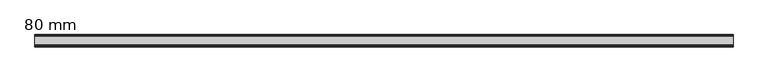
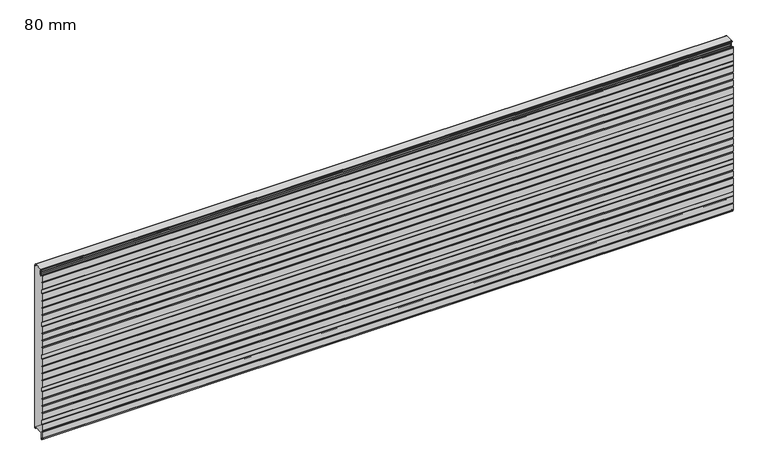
"""IFC4 building model written with IfcOpenShell, lengths in millimetres: plate geometry, HIANSA PANEL - H20.F02.002-PANELES DE FACHADA HORIZONTAL - PANEL PERFILADO - Panel de Muro Cortina : 80 mm."""

from ifc_helpers import new_model, si_unit, frame, origin, place, context, project, spatial, polyline, circle_curve, source, transform, mapped, element, save
from ifc_brep_helpers import plane_surface, cylinder_surface, revolved_surface, advanced_brep


def plate_80_mm_b6b1f14f(model_context):
    return source(origin(), model_context, "Body", "AdvancedBrep", [
        advanced_brep(
        [(-2200.0, -78.8752798, 1088.9050598), (-2200.0, -77.5170803, 1089.9655099), (-2200.0, -74.8776596, 1089.9655099), (-2200.0, -74.8776596, 1080.8), (-2200.0, -73.3776596, 1079.3), (-2200.0, -69.1276596, 1079.3), (-2200.0, -67.6276596, 1080.8), (-2200.0, -67.6276596, 1082.4013031), (-2200.0, -66.9880243, 1083.6300312), (-2200.0, -60.9305067, 1087.8715506), (-2200.0, -60.0776596, 1089.5098547), (-2200.0, -60.0776596, 1098.6062275), (-2200.0, -59.3889845, 1099.7990478), (-2200.0, -59.3889845, 1100.7990478), (-2200.0, -60.0776596, 1101.9918681), (-2200.0, -60.0776596, 1111.0896684), (-2200.0, -60.9305067, 1112.7279725), (-2200.0, -66.9880243, 1116.969492), (-2200.0, -67.6276596, 1118.19822), (-2200.0, -67.6276596, 1121.5805697), (-2200.0, -66.1276596, 1123.0805697), (-2200.0, -7.7494039, 1123.0810465), (-2200.0, -6.7486887, 1122.0803313), (-2200.0, -6.7486887, 1115.9337883), (-2200.0, -4.7472517, 1113.9323514), (-2200.0, -1.4941037, 1113.9323514), (-2200.0, -0.5, 1112.9382477), (-2200.0, -0.5, 1088.0627766), (-2200.0, -1.5005169, 1085.0504228), (-2200.0, -1.5005169, 1044.8881451), (-2200.0, -0.5, 1041.8865945), (-2200.0, -0.5, 997.0519734), (-2200.0, -1.5005169, 994.0504228), (-2200.0, -1.5005169, 953.8881451), (-2200.0, -0.5, 950.8865945), (-2200.0, -0.5, 906.0519734), (-2200.0, -1.5005169, 903.0504228), (-2200.0, -1.5005169, 862.8881451), (-2200.0, -0.5, 859.8865945), (-2200.0, -0.5, 815.0519734), (-2200.0, -1.5005169, 812.0504228), (-2200.0, -1.5005169, 771.8881451), (-2200.0, -0.5, 768.8865945), (-2200.0, -0.5, 724.0519734), (-2200.0, -1.5005169, 721.0504228), (-2200.0, -1.5005169, 680.8881451), (-2200.0, -0.5, 677.8865945), (-2200.0, -0.5, 633.0519734), (-2200.0, -1.5005169, 630.0504228), (-2200.0, -1.5005169, 589.8881451), (-2200.0, -0.5, 586.8865945), (-2200.0, -0.5, 542.0519734), (-2200.0, -1.5005169, 539.0504228), (-2200.0, -1.5005169, 498.8881451), (-2200.0, -0.5, 495.8865945), (-2200.0, -0.5, 451.0519734), (-2200.0, -1.5005169, 448.0504228), (-2200.0, -1.5005169, 407.8881451), (-2200.0, -0.5, 404.8865945), (-2200.0, -0.5, 360.0519734), (-2200.0, -1.5005169, 357.0504228), (-2200.0, -1.5005169, 316.8881451), (-2200.0, -0.5, 313.8865945), (-2200.0, -0.5, 269.0519734), (-2200.0, -1.5005169, 266.0504228), (-2200.0, -1.5005169, 225.8881451), (-2200.0, -0.5, 222.8865945), (-2200.0, -0.5, 178.0519734), (-2200.0, -1.5005169, 175.0504228), (-2200.0, -1.5005169, 134.8881451), (-2200.0, -0.5, 131.8865945), (-2200.0, -0.5, 87.0519734), (-2200.0, -1.5005169, 84.0504228), (-2200.0, -1.5005169, 43.8881451), (-2200.0, -0.5, 40.8962672), (-2200.0, -0.5, 15.9680961), (-2200.0, -1.5000258, 14.9680403), (-2200.0, -4.4999967, 14.9677262), (-2200.0, -5.5000043, 15.9677319), (-2200.0, -5.5004096, 23.5818123), (-2200.0, -7.5396439, 25.6210465), (-2200.0, -66.3470846, 25.6210465), (-2200.0, -68.8839497, 23.0841814), (-2200.0, -68.8839497, -19.2), (-2200.0, -73.6276596, -19.2), (-2200.0, -73.6276596, -10.5344901), (-2200.0, -75.1276596, -9.0344901), (-2200.0, -77.5178943, -9.0344901), (-2200.0, -78.8750825, -7.9748295), (-2200.0, -79.5, -5.4751593), (-2200.0, -79.5, 33.6239573), (-2200.0, -78.4846118, 37.6855101), (-2200.0, -79.5, 41.7470629), (-2200.0, -79.5, 84.8265935), (-2200.0, -78.5, 87.8265935), (-2200.0, -78.5, 113.1008712), (-2200.0, -79.5, 116.1008712), (-2200.0, -79.5, 159.1804017), (-2200.0, -78.4846118, 163.2419545), (-2200.0, -79.5, 167.3035073), (-2200.0, -79.5, 206.4026239), (-2200.0, -78.4846118, 210.4641767), (-2200.0, -79.5, 214.5257295), (-2200.0, -79.5, 253.6248461), (-2200.0, -78.4846118, 257.6863989), (-2200.0, -79.5, 261.7479517), (-2200.0, -79.5, 304.8274823), (-2200.0, -78.5, 307.8274823), (-2200.0, -78.5, 333.10176), (-2200.0, -79.5, 336.10176), (-2200.0, -79.5, 379.1812905), (-2200.0, -78.4846118, 383.2428433), (-2200.0, -79.5, 387.3043961), (-2200.0, -79.5, 426.4035127), (-2200.0, -78.4846118, 430.4650655), (-2200.0, -79.5, 434.5266183), (-2200.0, -79.5, 473.6257349), (-2200.0, -78.4846118, 477.6872877), (-2200.0, -79.5, 481.7488405), (-2200.0, -79.5, 524.8283711), (-2200.0, -78.5, 527.8283711), (-2200.0, -78.5, 553.1026488), (-2200.0, -79.5, 556.1026488), (-2200.0, -79.5, 599.1821793), (-2200.0, -78.4846118, 603.2437321), (-2200.0, -79.5, 607.3052849), (-2200.0, -79.5, 646.4044015), (-2200.0, -78.4846118, 650.4659543), (-2200.0, -79.5, 654.5275071), (-2200.0, -79.5, 693.6266237), (-2200.0, -78.4846118, 697.6881765), (-2200.0, -79.5, 701.7497293), (-2200.0, -79.5, 744.8292599), (-2200.0, -78.5, 747.8292599), (-2200.0, -78.5, 773.1035376), (-2200.0, -79.5, 776.1035376), (-2200.0, -79.5, 819.1830681), (-2200.0, -78.4846118, 823.2446209), (-2200.0, -79.5, 827.3061737), (-2200.0, -79.5, 866.4052903), (-2200.0, -78.4846118, 870.4668431), (-2200.0, -79.5, 874.5283959), (-2200.0, -79.5, 913.6275125), (-2200.0, -78.4846118, 917.6890653), (-2200.0, -79.5, 921.7506181), (-2200.0, -79.5, 964.8301487), (-2200.0, -78.5, 967.8301487), (-2200.0, -78.5, 993.1044264), (-2200.0, -79.5, 996.1044264), (-2200.0, -79.5, 1039.1839569), (-2200.0, -78.4846118, 1043.2455097), (-2200.0, -79.5, 1047.3070625), (-2200.0, -79.5, 1086.4061791), (2200.0, -78.8752798, 1088.9050598), (2200.0, -79.5, 1086.4061791), (2200.0, -79.5, 1047.3070625), (2200.0, -78.4846118, 1043.2455097), (2200.0, -79.5, 1039.1839569), (2200.0, -79.5, 996.1044264), (2200.0, -78.5, 993.1044264), (2200.0, -78.5, 967.8301487), (2200.0, -79.5, 964.8301487), (2200.0, -79.5, 921.7506181), (2200.0, -78.4846118, 917.6890653), (2200.0, -79.5, 913.6275125), (2200.0, -79.5, 874.5283959), (2200.0, -78.4846118, 870.4668431), (2200.0, -79.5, 866.4052903), (2200.0, -79.5, 827.3061737), (2200.0, -78.4846118, 823.2446209), (2200.0, -79.5, 819.1830681), (2200.0, -79.5, 776.1035376), (2200.0, -78.5, 773.1035376), (2200.0, -78.5, 747.8292599), (2200.0, -79.5, 744.8292599), (2200.0, -79.5, 701.7497293), (2200.0, -78.4846118, 697.6881765), (2200.0, -79.5, 693.6266237), (2200.0, -79.5, 654.5275071), (2200.0, -78.4846118, 650.4659543), (2200.0, -79.5, 646.4044015), (2200.0, -79.5, 607.3052849), (2200.0, -78.4846118, 603.2437321), (2200.0, -79.5, 599.1821793), (2200.0, -79.5, 556.1026488), (2200.0, -78.5, 553.1026488), (2200.0, -78.5, 527.8283711), (2200.0, -79.5, 524.8283711), (2200.0, -79.5, 481.7488405), (2200.0, -78.4846118, 477.6872877), (2200.0, -79.5, 473.6257349), (2200.0, -79.5, 434.5266183), (2200.0, -78.4846118, 430.4650655), (2200.0, -79.5, 426.4035127), (2200.0, -79.5, 387.3043961), (2200.0, -78.4846118, 383.2428433), (2200.0, -79.5, 379.1812905), (2200.0, -79.5, 336.10176), (2200.0, -78.5, 333.10176), (2200.0, -78.5, 307.8274823), (2200.0, -79.5, 304.8274823), (2200.0, -79.5, 261.7479517), (2200.0, -78.4846118, 257.6863989), (2200.0, -79.5, 253.6248461), (2200.0, -79.5, 214.5257295), (2200.0, -78.4846118, 210.4641767), (2200.0, -79.5, 206.4026239), (2200.0, -79.5, 167.3035073), (2200.0, -78.4846118, 163.2419545), (2200.0, -79.5, 159.1804017), (2200.0, -79.5, 116.1008712), (2200.0, -78.5, 113.1008712), (2200.0, -78.5, 87.8265935), (2200.0, -79.5, 84.8265935), (2200.0, -79.5, 41.7470629), (2200.0, -78.4846118, 37.6855101), (2200.0, -79.5, 33.6239573), (2200.0, -79.5, -5.4751593), (2200.0, -78.8750825, -7.9748295), (2200.0, -77.5178943, -9.0344901), (2200.0, -75.1276596, -9.0344901), (2200.0, -73.6276596, -10.5344901), (2200.0, -73.6276596, -19.2), (2200.0, -68.8839497, -19.2), (2200.0, -68.8839497, 23.0841814), (2200.0, -66.3470846, 25.6210465), (2200.0, -7.5396439, 25.6210465), (2200.0, -5.5004096, 23.5818123), (2200.0, -5.5004096, 15.9677319), (2200.0, -4.4999967, 14.9677262), (2200.0, -1.5000258, 14.9680403), (2200.0, -0.5, 15.9680961), (2200.0, -0.5, 40.8962672), (2200.0, -1.5005169, 43.8881451), (2200.0, -1.5005169, 84.0504228), (2200.0, -0.5, 87.0519734), (2200.0, -0.5, 131.8865945), (2200.0, -1.5005169, 134.8881451), (2200.0, -1.5005169, 175.0504228), (2200.0, -0.5, 178.0519734), (2200.0, -0.5, 222.8865945), (2200.0, -1.5005169, 225.8881451), (2200.0, -1.5005169, 266.0504228), (2200.0, -0.5, 269.0519734), (2200.0, -0.5, 313.8865945), (2200.0, -1.5005169, 316.8881451), (2200.0, -1.5005169, 357.0504228), (2200.0, -0.5, 360.0519734), (2200.0, -0.5, 404.8865945), (2200.0, -1.5005169, 407.8881451), (2200.0, -1.5005169, 448.0504228), (2200.0, -0.5, 451.0519734), (2200.0, -0.5, 495.8865945), (2200.0, -1.5005169, 498.8881451), (2200.0, -1.5005169, 539.0504228), (2200.0, -0.5, 542.0519734), (2200.0, -0.5, 586.8865945), (2200.0, -1.5005169, 589.8881451), (2200.0, -1.5005169, 630.0504228), (2200.0, -0.5, 633.0519734), (2200.0, -0.5, 677.8865945), (2200.0, -1.5005169, 680.8881451), (2200.0, -1.5005169, 721.0504228), (2200.0, -0.5, 724.0519734), (2200.0, -0.5, 768.8865945), (2200.0, -1.5005169, 771.8881451), (2200.0, -1.5005169, 812.0504228), (2200.0, -0.5, 815.0519734), (2200.0, -0.5, 859.8865945), (2200.0, -1.5005169, 862.8881451), (2200.0, -1.5005169, 903.0504228), (2200.0, -0.5, 906.0519734), (2200.0, -0.5, 950.8865945), (2200.0, -1.5005169, 953.8881451), (2200.0, -1.5005169, 994.0504228), (2200.0, -0.5, 997.0519734), (2200.0, -0.5, 1041.8865945), (2200.0, -1.5005169, 1044.8881451), (2200.0, -1.5005169, 1085.0504228), (2200.0, -0.5, 1088.0627766), (2200.0, -0.5, 1112.9382477), (2200.0, -1.4941037, 1113.9323514), (2200.0, -4.7472517, 1113.9323514), (2200.0, -6.7486887, 1115.9337883), (2200.0, -6.7486887, 1122.0803313), (2200.0, -7.7494039, 1123.0810465), (2200.0, -66.1276596, 1123.0810465), (2200.0, -67.6276596, 1121.5805697), (2200.0, -67.6276596, 1118.19822), (2200.0, -66.9880243, 1116.969492), (2200.0, -60.9305067, 1112.7279725), (2200.0, -60.0776596, 1111.0896684), (2200.0, -60.0776596, 1101.9918681), (2200.0, -59.3889845, 1100.7990478), (2200.0, -59.3889845, 1099.7990478), (2200.0, -60.0776596, 1098.6062275), (2200.0, -60.0776596, 1089.5098547), (2200.0, -60.9305067, 1087.8715506), (2200.0, -66.9880243, 1083.6300312), (2200.0, -67.6276596, 1082.4013031), (2200.0, -67.6276596, 1080.8), (2200.0, -69.1276596, 1079.3), (2200.0, -73.3776596, 1079.3), (2200.0, -74.8776596, 1080.8), (2200.0, -74.8776596, 1089.9655099), (2200.0, -77.5170803, 1089.9655099)],
        [
            (0, 1, circle_curve(frame((-2200.0, -77.5170803, 1088.5655099), z_axis=(-1.0, 0.0, 0.0), x_axis=(0.0, 0.0, 1.0)), 1.4)),
            (1, 2),
            (2, 3),
            (3, 4, circle_curve(frame((-2200.0, -73.3776596, 1080.8), z_axis=(1.0, 0.0, 0.0), x_axis=(0.0, 0.0, 1.0)), 1.5)),
            (4, 5),
            (5, 6, circle_curve(frame((-2200.0, -69.1276596, 1080.8), z_axis=(1.0, 0.0, 0.0), x_axis=(0.0, 0.0, 1.0)), 1.5)),
            (6, 7),
            (7, 8, circle_curve(frame((-2200.0, -66.1276596, 1082.4013031), z_axis=(-1.0, 0.0, 0.0), x_axis=(0.0, 0.0, 1.0)), 1.5)),
            (8, 9),
            (9, 10, circle_curve(frame((-2200.0, -62.0776596, 1089.5098547), z_axis=(1.0, 0.0, 0.0), x_axis=(0.0, 0.0, 1.0)), 2.0)),
            (10, 11),
            (11, 12),
            (12, 13, circle_curve(frame((-2200.0, -60.2550099, 1100.2990478), z_axis=(1.0, 0.0, 0.0), x_axis=(0.0, 0.0, 1.0)), 1.0)),
            (13, 14),
            (14, 15),
            (15, 16, circle_curve(frame((-2200.0, -62.0776596, 1111.0896684), z_axis=(1.0, 0.0, 0.0), x_axis=(0.0, 0.0, 1.0)), 2.0)),
            (16, 17),
            (17, 18, circle_curve(frame((-2200.0, -66.1276596, 1118.19822), z_axis=(-1.0, 0.0, 0.0), x_axis=(0.0, 0.0, 1.0)), 1.5)),
            (18, 19),
            (19, 20, circle_curve(frame((-2200.0, -66.1276596, 1121.5805697), z_axis=(-1.0, 0.0, 0.0), x_axis=(0.0, 0.0, 1.0)), 1.5)),
            (20, 21),
            (21, 22, circle_curve(frame((-2200.0, -7.7494039, 1122.0803313), z_axis=(-1.0, 0.0, 0.0), x_axis=(0.0, 0.0, 1.0)), 1.0007153)),
            (22, 23),
            (23, 24, circle_curve(frame((-2200.0, -4.7472517, 1115.9337883), z_axis=(1.0, 0.0, 0.0), x_axis=(0.0, 0.0, 1.0)), 2.0014369)),
            (24, 25),
            (25, 26, circle_curve(frame((-2200.0, -1.4941037, 1112.9382477), z_axis=(-1.0, 0.0, 0.0), x_axis=(0.0, 0.0, 1.0)), 0.9941037)),
            (26, 27),
            (27, 28),
            (28, 29),
            (29, 30),
            (30, 31),
            (31, 32),
            (32, 33),
            (33, 34),
            (34, 35),
            (35, 36),
            (36, 37),
            (37, 38),
            (38, 39),
            (39, 40),
            (40, 41),
            (41, 42),
            (42, 43),
            (43, 44),
            (44, 45),
            (45, 46),
            (46, 47),
            (47, 48),
            (48, 49),
            (49, 50),
            (50, 51),
            (51, 52),
            (52, 53),
            (53, 54),
            (54, 55),
            (55, 56),
            (56, 57),
            (57, 58),
            (58, 59),
            (59, 60),
            (60, 61),
            (61, 62),
            (62, 63),
            (63, 64),
            (64, 65),
            (65, 66),
            (66, 67),
            (67, 68),
            (68, 69),
            (69, 70),
            (70, 71),
            (71, 72),
            (72, 73),
            (73, 74),
            (74, 75),
            (75, 76, circle_curve(frame((-2200.0, -1.5000558, 15.9680961), z_axis=(-1.0, 0.0, 0.0), x_axis=(0.0, 0.0, 1.0)), 1.0000558)),
            (76, 77),
            (77, 78, circle_curve(frame((-2200.0, -4.4999986, 15.9677319), z_axis=(-1.0, 0.0, 0.0), x_axis=(0.0, 0.0, 1.0)), 1.0000057)),
            (78, 79),
            (79, 80, circle_curve(frame((-2200.0, -7.5396439, 23.5818123), z_axis=(1.0, 0.0, 0.0), x_axis=(0.0, 0.0, 1.0)), 2.0392343)),
            (80, 81),
            (81, 82, circle_curve(frame((-2200.0, -66.3470846, 23.0841814), z_axis=(1.0, 0.0, 0.0), x_axis=(0.0, 0.0, 1.0)), 2.5368651)),
            (82, 83),
            (83, 84),
            (84, 85),
            (85, 86, circle_curve(frame((-2200.0, -75.1276596, -10.5344901), z_axis=(1.0, 0.0, 0.0), x_axis=(0.0, 0.0, 1.0)), 1.5)),
            (86, 87),
            (87, 88, circle_curve(frame((-2200.0, -77.5178943, -7.6355325), z_axis=(-1.0, 0.0, 0.0), x_axis=(0.0, 0.0, 1.0)), 1.3989576)),
            (88, 89),
            (89, 90),
            (90, 91),
            (91, 92),
            (92, 93),
            (93, 94),
            (94, 95),
            (95, 96),
            (96, 97),
            (97, 98),
            (98, 99),
            (99, 100),
            (100, 101),
            (101, 102),
            (102, 103),
            (103, 104),
            (104, 105),
            (105, 106),
            (106, 107),
            (107, 108),
            (108, 109),
            (109, 110),
            (110, 111),
            (111, 112),
            (112, 113),
            (113, 114),
            (114, 115),
            (115, 116),
            (116, 117),
            (117, 118),
            (118, 119),
            (119, 120),
            (120, 121),
            (121, 122),
            (122, 123),
            (123, 124),
            (124, 125),
            (125, 126),
            (126, 127),
            (127, 128),
            (128, 129),
            (129, 130),
            (130, 131),
            (131, 132),
            (132, 133),
            (133, 134),
            (134, 135),
            (135, 136),
            (136, 137),
            (137, 138),
            (138, 139),
            (139, 140),
            (140, 141),
            (141, 142),
            (142, 143),
            (143, 144),
            (144, 145),
            (145, 146),
            (146, 147),
            (147, 148),
            (148, 149),
            (149, 150),
            (150, 151),
            (151, 152),
            (152, 0),
            (153, 154),
            (154, 155),
            (155, 156),
            (156, 157),
            (157, 158),
            (158, 159),
            (159, 160),
            (160, 161),
            (161, 162),
            (162, 163),
            (163, 164),
            (164, 165),
            (165, 166),
            (166, 167),
            (167, 168),
            (168, 169),
            (169, 170),
            (170, 171),
            (171, 172),
            (172, 173),
            (173, 174),
            (174, 175),
            (175, 176),
            (176, 177),
            (177, 178),
            (178, 179),
            (179, 180),
            (180, 181),
            (181, 182),
            (182, 183),
            (183, 184),
            (184, 185),
            (185, 186),
            (186, 187),
            (187, 188),
            (188, 189),
            (189, 190),
            (190, 191),
            (191, 192),
            (192, 193),
            (193, 194),
            (194, 195),
            (195, 196),
            (196, 197),
            (197, 198),
            (198, 199),
            (199, 200),
            (200, 201),
            (201, 202),
            (202, 203),
            (203, 204),
            (204, 205),
            (205, 206),
            (206, 207),
            (207, 208),
            (208, 209),
            (209, 210),
            (210, 211),
            (211, 212),
            (212, 213),
            (213, 214),
            (214, 215),
            (215, 216),
            (216, 217),
            (217, 218),
            (218, 219, circle_curve(frame((2200.0, -77.5178943, -7.6355325), z_axis=(1.0, 0.0, 0.0), x_axis=(0.0, 0.0, 1.0)), 1.3989576)),
            (219, 220),
            (220, 221, circle_curve(frame((2200.0, -75.1276596, -10.5344901), z_axis=(-1.0, 0.0, 0.0), x_axis=(0.0, 0.0, 1.0)), 1.5)),
            (221, 222),
            (222, 223),
            (223, 224),
            (224, 225, circle_curve(frame((2200.0, -66.3470846, 23.0841814), z_axis=(-1.0, 0.0, 0.0), x_axis=(0.0, 0.0, 1.0)), 2.5368651)),
            (225, 226),
            (226, 227, circle_curve(frame((2200.0, -7.5396439, 23.5818123), z_axis=(-1.0, 0.0, 0.0), x_axis=(0.0, 0.0, 1.0)), 2.0392343)),
            (227, 228),
            (228, 229, circle_curve(frame((2200.0, -4.4999986, 15.9677319), z_axis=(1.0, 0.0, 0.0), x_axis=(0.0, 0.0, 1.0)), 1.0000057)),
            (229, 230),
            (230, 231, circle_curve(frame((2200.0, -1.5000558, 15.9680961), z_axis=(1.0, 0.0, 0.0), x_axis=(0.0, 0.0, 1.0)), 1.0000558)),
            (231, 232),
            (232, 233),
            (233, 234),
            (234, 235),
            (235, 236),
            (236, 237),
            (237, 238),
            (238, 239),
            (239, 240),
            (240, 241),
            (241, 242),
            (242, 243),
            (243, 244),
            (244, 245),
            (245, 246),
            (246, 247),
            (247, 248),
            (248, 249),
            (249, 250),
            (250, 251),
            (251, 252),
            (252, 253),
            (253, 254),
            (254, 255),
            (255, 256),
            (256, 257),
            (257, 258),
            (258, 259),
            (259, 260),
            (260, 261),
            (261, 262),
            (262, 263),
            (263, 264),
            (264, 265),
            (265, 266),
            (266, 267),
            (267, 268),
            (268, 269),
            (269, 270),
            (270, 271),
            (271, 272),
            (272, 273),
            (273, 274),
            (274, 275),
            (275, 276),
            (276, 277),
            (277, 278),
            (278, 279),
            (279, 280),
            (280, 281, circle_curve(frame((2200.0, -1.4941037, 1112.9382477), z_axis=(1.0, 0.0, 0.0), x_axis=(0.0, 0.0, 1.0)), 0.9941037)),
            (281, 282),
            (282, 283, circle_curve(frame((2200.0, -4.7472517, 1115.9337883), z_axis=(-1.0, 0.0, 0.0), x_axis=(0.0, 0.0, 1.0)), 2.0014369)),
            (283, 284),
            (284, 285, circle_curve(frame((2200.0, -7.7494039, 1122.0803313), z_axis=(1.0, 0.0, 0.0), x_axis=(0.0, 0.0, 1.0)), 1.0007153)),
            (285, 286),
            (286, 287, circle_curve(frame((2200.0, -66.1276596, 1121.5805697), z_axis=(1.0, 0.0, 0.0), x_axis=(0.0, 0.0, 1.0)), 1.5)),
            (287, 288),
            (288, 289, circle_curve(frame((2200.0, -66.1276596, 1118.19822), z_axis=(1.0, 0.0, 0.0), x_axis=(0.0, 0.0, 1.0)), 1.5)),
            (289, 290),
            (290, 291, circle_curve(frame((2200.0, -62.0776596, 1111.0896684), z_axis=(-1.0, 0.0, 0.0), x_axis=(0.0, 0.0, 1.0)), 2.0)),
            (291, 292),
            (292, 293),
            (293, 294, circle_curve(frame((2200.0, -60.2550099, 1100.2990478), z_axis=(-1.0, 0.0, 0.0), x_axis=(0.0, 0.0, 1.0)), 1.0)),
            (294, 295),
            (295, 296),
            (296, 297, circle_curve(frame((2200.0, -62.0776596, 1089.5098547), z_axis=(-1.0, 0.0, 0.0), x_axis=(0.0, 0.0, 1.0)), 2.0)),
            (297, 298),
            (298, 299, circle_curve(frame((2200.0, -66.1276596, 1082.4013031), z_axis=(1.0, 0.0, 0.0), x_axis=(0.0, 0.0, 1.0)), 1.5)),
            (299, 300),
            (300, 301, circle_curve(frame((2200.0, -69.1276596, 1080.8), z_axis=(-1.0, 0.0, 0.0), x_axis=(0.0, 0.0, 1.0)), 1.5)),
            (301, 302),
            (302, 303, circle_curve(frame((2200.0, -73.3776596, 1080.8), z_axis=(-1.0, 0.0, 0.0), x_axis=(0.0, 0.0, 1.0)), 1.5)),
            (303, 304),
            (304, 305),
            (305, 153, circle_curve(frame((2200.0, -77.5170803, 1088.5655099), z_axis=(1.0, 0.0, 0.0), x_axis=(0.0, 0.0, 1.0)), 1.4)),
            (147, 159),
            (158, 148),
            (146, 160),
            (145, 161),
            (144, 162),
            (143, 163),
            (142, 164),
            (141, 165),
            (140, 166),
            (139, 167),
            (138, 168),
            (137, 169),
            (136, 170),
            (135, 171),
            (134, 172),
            (133, 173),
            (132, 174),
            (131, 175),
            (130, 176),
            (129, 177),
            (128, 178),
            (127, 179),
            (126, 180),
            (125, 181),
            (124, 182),
            (123, 183),
            (122, 184),
            (121, 185),
            (120, 186),
            (119, 187),
            (118, 188),
            (117, 189),
            (116, 190),
            (115, 191),
            (114, 192),
            (113, 193),
            (112, 194),
            (111, 195),
            (110, 196),
            (109, 197),
            (108, 198),
            (107, 199),
            (106, 200),
            (105, 201),
            (104, 202),
            (103, 203),
            (102, 204),
            (101, 205),
            (100, 206),
            (99, 207),
            (98, 208),
            (97, 209),
            (96, 210),
            (95, 211),
            (94, 212),
            (93, 213),
            (92, 214),
            (91, 215),
            (90, 216),
            (89, 217),
            (88, 218),
            (87, 219),
            (86, 220),
            (85, 221),
            (84, 222),
            (83, 223),
            (82, 224),
            (81, 225),
            (80, 226),
            (79, 227),
            (78, 228),
            (74, 232),
            (231, 75),
            (73, 233),
            (72, 234),
            (71, 235),
            (70, 236),
            (69, 237),
            (68, 238),
            (67, 239),
            (66, 240),
            (65, 241),
            (64, 242),
            (63, 243),
            (62, 244),
            (61, 245),
            (60, 246),
            (59, 247),
            (58, 248),
            (57, 249),
            (56, 250),
            (55, 251),
            (54, 252),
            (53, 253),
            (52, 254),
            (51, 255),
            (50, 256),
            (49, 257),
            (48, 258),
            (47, 259),
            (46, 260),
            (45, 261),
            (44, 262),
            (43, 263),
            (42, 264),
            (41, 265),
            (40, 266),
            (39, 267),
            (38, 268),
            (37, 269),
            (36, 270),
            (35, 271),
            (34, 272),
            (33, 273),
            (32, 274),
            (31, 275),
            (30, 276),
            (152, 154),
            (153, 0),
            (151, 155),
            (150, 156),
            (149, 157),
            (29, 277),
            (28, 278),
            (27, 279),
            (26, 280),
            (25, 281),
            (24, 282),
            (23, 283),
            (22, 284),
            (21, 285),
            (20, 286),
            (19, 287),
            (18, 288),
            (17, 289),
            (16, 290),
            (15, 291),
            (9, 297),
            (296, 10),
            (8, 298),
            (7, 299),
            (6, 300),
            (5, 301),
            (4, 302),
            (3, 303),
            (2, 304),
            (1, 305),
            (14, 292),
            (13, 293),
            (12, 294),
            (11, 295),
            (77, 229),
            (76, 230),
        ],
        [
            plane_surface(frame((-2200.0, 0.0, 0.0), z_axis=(-1.0, 0.0, 0.0), x_axis=(0.0, 0.0, 1.0))),
            plane_surface(frame((2200.0, 0.0, 0.0), z_axis=(1.0, 0.0, 0.0), x_axis=(0.0, 0.0, 1.0))),
            plane_surface(frame((-2200.0, -79.5, 996.1044264), z_axis=(0.0, -0.9486832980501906, -0.3162277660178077), x_axis=(1.0, 0.0, 0.0))),
            plane_surface(frame((-2200.0, -78.5, 993.1044264), z_axis=(0.0, -1.0, 0.0), x_axis=(1.0, 0.0, 0.0))),
            plane_surface(frame((-2200.0, -78.5, 967.8301487), z_axis=(0.0, -0.948683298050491, 0.3162277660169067), x_axis=(1.0, 0.0, 0.0))),
            plane_surface(frame((-2200.0, -79.5, 964.8301487), z_axis=(0.0, -1.0, 0.0), x_axis=(1.0, 0.0, 0.0))),
            plane_surface(frame((-2200.0, -79.5, 921.7506181), z_axis=(0.0, -0.9701425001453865, -0.2425356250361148), x_axis=(1.0, 0.0, 0.0))),
            plane_surface(frame((-2200.0, -78.4846118, 917.6890653), z_axis=(0.0, -0.9701425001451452, 0.2425356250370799), x_axis=(1.0, 0.0, 0.0))),
            plane_surface(frame((-2200.0, -79.5, 913.6275125), z_axis=(0.0, -1.0, 0.0), x_axis=(1.0, 0.0, 0.0))),
            plane_surface(frame((-2200.0, -79.5, 874.5283959), z_axis=(0.0, -0.9701425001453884, -0.2425356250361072), x_axis=(1.0, 0.0, 0.0))),
            plane_surface(frame((-2200.0, -78.4846118, 870.4668431), z_axis=(0.0, -0.9701425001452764, 0.24253562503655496), x_axis=(1.0, 0.0, 0.0))),
            plane_surface(frame((-2200.0, -79.5, 866.4052903), z_axis=(0.0, -1.0, 0.0), x_axis=(1.0, 0.0, 0.0))),
            plane_surface(frame((-2200.0, -79.5, 827.3061737), z_axis=(0.0, -0.9701425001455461, -0.24253562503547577), x_axis=(1.0, 0.0, 0.0))),
            plane_surface(frame((-2200.0, -78.4846118, 823.2446209), z_axis=(0.0, -0.9701425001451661, 0.2425356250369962), x_axis=(1.0, 0.0, 0.0))),
            plane_surface(frame((-2200.0, -79.5, 819.1830681), z_axis=(0.0, -1.0, 0.0), x_axis=(1.0, 0.0, 0.0))),
            plane_surface(frame((-2200.0, -79.5, 776.1035376), z_axis=(0.0, -0.9486832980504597, -0.3162277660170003), x_axis=(1.0, 0.0, 0.0))),
            plane_surface(frame((-2200.0, -78.5, 773.1035376), z_axis=(0.0, -1.0, 0.0), x_axis=(1.0, 0.0, 0.0))),
            plane_surface(frame((-2200.0, -78.5, 747.8292599), z_axis=(0.0, -0.948683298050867, 0.3162277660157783), x_axis=(1.0, 0.0, 0.0))),
            plane_surface(frame((-2200.0, -79.5, 744.8292599), z_axis=(0.0, -1.0, 0.0), x_axis=(1.0, 0.0, 0.0))),
            plane_surface(frame((-2200.0, -79.5, 701.7497293), z_axis=(0.0, -0.9701425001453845, -0.24253562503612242), x_axis=(1.0, 0.0, 0.0))),
            plane_surface(frame((-2200.0, -78.4846118, 697.6881765), z_axis=(0.0, -0.9701425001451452, 0.2425356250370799), x_axis=(1.0, 0.0, 0.0))),
            plane_surface(frame((-2200.0, -79.5, 693.6266237), z_axis=(0.0, -1.0, 0.0), x_axis=(1.0, 0.0, 0.0))),
            plane_surface(frame((-2200.0, -79.5, 654.5275071), z_axis=(0.0, -0.9701425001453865, -0.2425356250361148), x_axis=(1.0, 0.0, 0.0))),
            plane_surface(frame((-2200.0, -78.4846118, 650.4659543), z_axis=(0.0, -0.9701425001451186, 0.24253562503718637), x_axis=(1.0, 0.0, 0.0))),
            plane_surface(frame((-2200.0, -79.5, 646.4044015), z_axis=(0.0, -1.0, 0.0), x_axis=(1.0, 0.0, 0.0))),
            plane_surface(frame((-2200.0, -79.5, 607.3052849), z_axis=(0.0, -0.9701425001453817, -0.24253562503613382), x_axis=(1.0, 0.0, 0.0))),
            plane_surface(frame((-2200.0, -78.4846118, 603.2437321), z_axis=(0.0, -0.9701425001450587, 0.242535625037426), x_axis=(1.0, 0.0, 0.0))),
            plane_surface(frame((-2200.0, -79.5, 599.1821793), z_axis=(0.0, -1.0, 0.0), x_axis=(1.0, 0.0, 0.0))),
            plane_surface(frame((-2200.0, -79.5, 556.1026488), z_axis=(0.0, -0.9486832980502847, -0.3162277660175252), x_axis=(1.0, 0.0, 0.0))),
            plane_surface(frame((-2200.0, -78.5, 553.1026488), z_axis=(0.0, -1.0, 0.0), x_axis=(1.0, 0.0, 0.0))),
            plane_surface(frame((-2200.0, -78.5, 527.8283711), z_axis=(0.0, -0.9486832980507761, 0.3162277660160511), x_axis=(1.0, 0.0, 0.0))),
            plane_surface(frame((-2200.0, -79.5, 524.8283711), z_axis=(0.0, -1.0, 0.0), x_axis=(1.0, 0.0, 0.0))),
            plane_surface(frame((-2200.0, -79.5, 481.7488405), z_axis=(0.0, -0.9701425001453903, -0.2425356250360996), x_axis=(1.0, 0.0, 0.0))),
            plane_surface(frame((-2200.0, -78.4846118, 477.6872877), z_axis=(0.0, -0.9701425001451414, 0.24253562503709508), x_axis=(1.0, 0.0, 0.0))),
            plane_surface(frame((-2200.0, -79.5, 473.6257349), z_axis=(0.0, -1.0, 0.0), x_axis=(1.0, 0.0, 0.0))),
            plane_surface(frame((-2200.0, -79.5, 434.5266183), z_axis=(0.0, -0.9701425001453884, -0.2425356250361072), x_axis=(1.0, 0.0, 0.0))),
            plane_surface(frame((-2200.0, -78.4846118, 430.4650655), z_axis=(0.0, -0.9701425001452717, 0.24253562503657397), x_axis=(1.0, 0.0, 0.0))),
            plane_surface(frame((-2200.0, -79.5, 426.4035127), z_axis=(0.0, -1.0, 0.0), x_axis=(1.0, 0.0, 0.0))),
            plane_surface(frame((-2200.0, -79.5, 387.3043961), z_axis=(0.0, -0.9701425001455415, -0.2425356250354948), x_axis=(1.0, 0.0, 0.0))),
            plane_surface(frame((-2200.0, -78.4846118, 383.2428433), z_axis=(0.0, -0.9701425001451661, 0.2425356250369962), x_axis=(1.0, 0.0, 0.0))),
            plane_surface(frame((-2200.0, -79.5, 379.1812905), z_axis=(0.0, -1.0, 0.0), x_axis=(1.0, 0.0, 0.0))),
            plane_surface(frame((-2200.0, -79.5, 336.10176), z_axis=(0.0, -0.9486832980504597, -0.3162277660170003), x_axis=(1.0, 0.0, 0.0))),
            plane_surface(frame((-2200.0, -78.5, 333.10176), z_axis=(0.0, -1.0, 0.0), x_axis=(1.0, 0.0, 0.0))),
            plane_surface(frame((-2200.0, -78.5, 307.8274823), z_axis=(0.0, -0.9486832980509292, 0.3162277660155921), x_axis=(1.0, 0.0, 0.0))),
            plane_surface(frame((-2200.0, -79.5, 304.8274823), z_axis=(0.0, -1.0, 0.0), x_axis=(1.0, 0.0, 0.0))),
            plane_surface(frame((-2200.0, -79.5, 261.7479517), z_axis=(0.0, -0.9701425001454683, -0.2425356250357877), x_axis=(1.0, 0.0, 0.0))),
            plane_surface(frame((-2200.0, -78.4846118, 257.6863989), z_axis=(0.0, -0.9701425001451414, 0.24253562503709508), x_axis=(1.0, 0.0, 0.0))),
            plane_surface(frame((-2200.0, -79.5, 253.6248461), z_axis=(0.0, -1.0, 0.0), x_axis=(1.0, 0.0, 0.0))),
            plane_surface(frame((-2200.0, -79.5, 214.5257295), z_axis=(0.0, -0.9701425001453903, -0.2425356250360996), x_axis=(1.0, 0.0, 0.0))),
            plane_surface(frame((-2200.0, -78.4846118, 210.4641767), z_axis=(0.0, -0.9701425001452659, 0.24253562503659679), x_axis=(1.0, 0.0, 0.0))),
            plane_surface(frame((-2200.0, -79.5, 206.4026239), z_axis=(0.0, -1.0, 0.0), x_axis=(1.0, 0.0, 0.0))),
            plane_surface(frame((-2200.0, -79.5, 167.3035073), z_axis=(0.0, -0.9701425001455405, -0.2425356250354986), x_axis=(1.0, 0.0, 0.0))),
            plane_surface(frame((-2200.0, -78.4846118, 163.2419545), z_axis=(0.0, -0.9701425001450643, 0.24253562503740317), x_axis=(1.0, 0.0, 0.0))),
            plane_surface(frame((-2200.0, -79.5, 159.1804017), z_axis=(0.0, -1.0, 0.0), x_axis=(1.0, 0.0, 0.0))),
            plane_surface(frame((-2200.0, -79.5, 116.1008712), z_axis=(0.0, -0.9486832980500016, -0.3162277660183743), x_axis=(1.0, 0.0, 0.0))),
            plane_surface(frame((-2200.0, -78.5, 113.1008712), z_axis=(0.0, -1.0, 0.0), x_axis=(1.0, 0.0, 0.0))),
            plane_surface(frame((-2200.0, -78.5, 87.8265935), z_axis=(0.0, -0.9486832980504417, 0.3162277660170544), x_axis=(1.0, 0.0, 0.0))),
            plane_surface(frame((-2200.0, -79.5, 84.8265935), z_axis=(0.0, -1.0, 0.0), x_axis=(1.0, 0.0, 0.0))),
            plane_surface(frame((-2200.0, -79.5, 41.7470629), z_axis=(0.0, -0.9701425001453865, -0.2425356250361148), x_axis=(1.0, 0.0, 0.0))),
            plane_surface(frame((-2200.0, -78.4846118, 37.6855101), z_axis=(0.0, -0.9701425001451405, 0.24253562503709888), x_axis=(1.0, 0.0, 0.0))),
            plane_surface(frame((-2200.0, -79.5, 33.6239573), z_axis=(0.0, -1.0, 0.0), x_axis=(1.0, 0.0, 0.0))),
            plane_surface(frame((-2200.0, -79.5, -5.4751593), z_axis=(0.0, -0.9701425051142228, -0.24253560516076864), x_axis=(1.0, 0.0, 0.0))),
            cylinder_surface(frame((-2200.0, -77.5178943, -7.6355325), z_axis=(-1.0, 0.0, 0.0), x_axis=(0.0, 0.0, 1.0)), 1.3989576),
            plane_surface(frame((-2200.0, -77.5178943, -9.0344901), z_axis=(0.0, 0.0, -1.0), x_axis=(1.0, 0.0, 0.0))),
            revolved_surface(polyline([(2200.0, -75.1276596, -9.0344901), (-2200.0, -75.1276596, -9.0344901)]), (-2200.0, -75.1276596, -10.5344901), (1.0, 0.0, 0.0)),
            plane_surface(frame((-2200.0, -73.6276596, -10.5344901), z_axis=(0.0, -1.0, 0.0), x_axis=(1.0, 0.0, 0.0))),
            plane_surface(frame((-2200.0, -73.6276596, -19.2), z_axis=(0.0, 0.0, -1.0), x_axis=(1.0, 0.0, 0.0))),
            plane_surface(frame((-2200.0, -68.8839497, -19.2), z_axis=(0.0, 1.0, 0.0), x_axis=(1.0, 0.0, 0.0))),
            revolved_surface(polyline([(2200.0, -66.3470846, 25.6210465), (-2200.0, -66.3470846, 25.6210465)]), (-2200.0, -66.3470846, 23.0841814), (1.0, 0.0, 0.0)),
            plane_surface(frame((-2200.0, -66.3470846, 25.6210465), z_axis=(0.0, 0.0, -1.0), x_axis=(1.0, 0.0, 0.0))),
            revolved_surface(polyline([(2200.0, -7.5396439, 25.6210466), (-2200.0, -7.5396439, 25.6210466)]), (-2200.0, -7.5396439, 23.5818123), (1.0, 0.0, 0.0)),
            plane_surface(frame((-2200.0, -5.5004096, 23.5818123), z_axis=(0.0, -1.0, 0.0), x_axis=(1.0, 0.0, 0.0))),
            plane_surface(frame((-2200.0, -0.5, 15.9680961), z_axis=(0.0, 1.0, 0.0), x_axis=(1.0, 0.0, 0.0))),
            plane_surface(frame((-2200.0, -0.5, 40.8962672), z_axis=(0.0, 0.9483762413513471, 0.31714744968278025), x_axis=(1.0, 0.0, 0.0))),
            plane_surface(frame((-2200.0, -1.5005169, 43.8881451), z_axis=(0.0, 1.0, 0.0), x_axis=(1.0, 0.0, 0.0))),
            plane_surface(frame((-2200.0, -1.5005169, 84.0504228), z_axis=(0.0, 0.9486832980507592, -0.3162277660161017), x_axis=(1.0, 0.0, 0.0))),
            plane_surface(frame((-2200.0, -0.5, 87.0519734), z_axis=(0.0, 1.0, 0.0), x_axis=(1.0, 0.0, 0.0))),
            plane_surface(frame((-2200.0, -0.5, 131.8865945), z_axis=(0.0, 0.948683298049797, 0.3162277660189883), x_axis=(1.0, 0.0, 0.0))),
            plane_surface(frame((-2200.0, -1.5005169, 134.8881451), z_axis=(0.0, 1.0, 0.0), x_axis=(1.0, 0.0, 0.0))),
            plane_surface(frame((-2200.0, -1.5005169, 175.0504228), z_axis=(0.0, 0.9486832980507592, -0.3162277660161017), x_axis=(1.0, 0.0, 0.0))),
            plane_surface(frame((-2200.0, -0.5, 178.0519734), z_axis=(0.0, 1.0, 0.0), x_axis=(1.0, 0.0, 0.0))),
            plane_surface(frame((-2200.0, -0.5, 222.8865945), z_axis=(0.0, 0.948683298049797, 0.3162277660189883), x_axis=(1.0, 0.0, 0.0))),
            plane_surface(frame((-2200.0, -1.5005169, 225.8881451), z_axis=(0.0, 1.0, 0.0), x_axis=(1.0, 0.0, 0.0))),
            plane_surface(frame((-2200.0, -1.5005169, 266.0504228), z_axis=(0.0, 0.9486832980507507, -0.3162277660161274), x_axis=(1.0, 0.0, 0.0))),
            plane_surface(frame((-2200.0, -0.5, 269.0519734), z_axis=(0.0, 1.0, 0.0), x_axis=(1.0, 0.0, 0.0))),
            plane_surface(frame((-2200.0, -0.5, 313.8865945), z_axis=(0.0, 0.9486832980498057, 0.31622776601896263), x_axis=(1.0, 0.0, 0.0))),
            plane_surface(frame((-2200.0, -1.5005169, 316.8881451), z_axis=(0.0, 1.0, 0.0), x_axis=(1.0, 0.0, 0.0))),
            plane_surface(frame((-2200.0, -1.5005169, 357.0504228), z_axis=(0.0, 0.9486832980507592, -0.3162277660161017), x_axis=(1.0, 0.0, 0.0))),
            plane_surface(frame((-2200.0, -0.5, 360.0519734), z_axis=(0.0, 1.0, 0.0), x_axis=(1.0, 0.0, 0.0))),
            plane_surface(frame((-2200.0, -0.5, 404.8865945), z_axis=(0.0, 0.948683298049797, 0.3162277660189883), x_axis=(1.0, 0.0, 0.0))),
            plane_surface(frame((-2200.0, -1.5005169, 407.8881451), z_axis=(0.0, 1.0, 0.0), x_axis=(1.0, 0.0, 0.0))),
            plane_surface(frame((-2200.0, -1.5005169, 448.0504228), z_axis=(0.0, 0.9486832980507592, -0.3162277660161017), x_axis=(1.0, 0.0, 0.0))),
            plane_surface(frame((-2200.0, -0.5, 451.0519734), z_axis=(0.0, 1.0, 0.0), x_axis=(1.0, 0.0, 0.0))),
            plane_surface(frame((-2200.0, -0.5, 495.8865945), z_axis=(0.0, 0.9486832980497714, 0.3162277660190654), x_axis=(1.0, 0.0, 0.0))),
            plane_surface(frame((-2200.0, -1.5005169, 498.8881451), z_axis=(0.0, 1.0, 0.0), x_axis=(1.0, 0.0, 0.0))),
            plane_surface(frame((-2200.0, -1.5005169, 539.0504228), z_axis=(0.0, 0.9486832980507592, -0.3162277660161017), x_axis=(1.0, 0.0, 0.0))),
            plane_surface(frame((-2200.0, -0.5, 542.0519734), z_axis=(0.0, 1.0, 0.0), x_axis=(1.0, 0.0, 0.0))),
            plane_surface(frame((-2200.0, -0.5, 586.8865945), z_axis=(0.0, 0.9486832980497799, 0.3162277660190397), x_axis=(1.0, 0.0, 0.0))),
            plane_surface(frame((-2200.0, -1.5005169, 589.8881451), z_axis=(0.0, 1.0, 0.0), x_axis=(1.0, 0.0, 0.0))),
            plane_surface(frame((-2200.0, -1.5005169, 630.0504228), z_axis=(0.0, 0.9486832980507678, -0.316227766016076), x_axis=(1.0, 0.0, 0.0))),
            plane_surface(frame((-2200.0, -0.5, 633.0519734), z_axis=(0.0, 1.0, 0.0), x_axis=(1.0, 0.0, 0.0))),
            plane_surface(frame((-2200.0, -0.5, 677.8865945), z_axis=(0.0, 0.9486832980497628, 0.3162277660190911), x_axis=(1.0, 0.0, 0.0))),
            plane_surface(frame((-2200.0, -1.5005169, 680.8881451), z_axis=(0.0, 1.0, 0.0), x_axis=(1.0, 0.0, 0.0))),
            plane_surface(frame((-2200.0, -1.5005169, 721.0504228), z_axis=(0.0, 0.9486832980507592, -0.3162277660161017), x_axis=(1.0, 0.0, 0.0))),
            plane_surface(frame((-2200.0, -0.5, 724.0519734), z_axis=(0.0, 1.0, 0.0), x_axis=(1.0, 0.0, 0.0))),
            plane_surface(frame((-2200.0, -0.5, 768.8865945), z_axis=(0.0, 0.9486832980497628, 0.3162277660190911), x_axis=(1.0, 0.0, 0.0))),
            plane_surface(frame((-2200.0, -1.5005169, 771.8881451), z_axis=(0.0, 1.0, 0.0), x_axis=(1.0, 0.0, 0.0))),
            plane_surface(frame((-2200.0, -1.5005169, 812.0504228), z_axis=(0.0, 0.9486832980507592, -0.3162277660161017), x_axis=(1.0, 0.0, 0.0))),
            plane_surface(frame((-2200.0, -0.5, 815.0519734), z_axis=(0.0, 1.0, 0.0), x_axis=(1.0, 0.0, 0.0))),
            plane_surface(frame((-2200.0, -0.5, 859.8865945), z_axis=(0.0, 0.9486832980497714, 0.3162277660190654), x_axis=(1.0, 0.0, 0.0))),
            plane_surface(frame((-2200.0, -1.5005169, 862.8881451), z_axis=(0.0, 1.0, 0.0), x_axis=(1.0, 0.0, 0.0))),
            plane_surface(frame((-2200.0, -1.5005169, 903.0504228), z_axis=(0.0, 0.9486832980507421, -0.3162277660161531), x_axis=(1.0, 0.0, 0.0))),
            plane_surface(frame((-2200.0, -0.5, 906.0519734), z_axis=(0.0, 1.0, 0.0), x_axis=(1.0, 0.0, 0.0))),
            plane_surface(frame((-2200.0, -0.5, 950.8865945), z_axis=(0.0, 0.9486832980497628, 0.3162277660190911), x_axis=(1.0, 0.0, 0.0))),
            plane_surface(frame((-2200.0, -1.5005169, 953.8881451), z_axis=(0.0, 1.0, 0.0), x_axis=(1.0, 0.0, 0.0))),
            plane_surface(frame((-2200.0, -1.5005169, 994.0504228), z_axis=(0.0, 0.9486832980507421, -0.3162277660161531), x_axis=(1.0, 0.0, 0.0))),
            plane_surface(frame((-2200.0, -0.5, 997.0519734), z_axis=(0.0, 1.0, 0.0), x_axis=(1.0, 0.0, 0.0))),
            plane_surface(frame((-2200.0, -78.8752798, 1088.9050598), z_axis=(0.0, -0.9701425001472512, 0.24253562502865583), x_axis=(1.0, 0.0, 0.0))),
            plane_surface(frame((-2200.0, -79.5, 1086.4061791), z_axis=(0.0, -1.0, 0.0), x_axis=(1.0, 0.0, 0.0))),
            plane_surface(frame((-2200.0, -79.5, 1047.3070625), z_axis=(0.0, -0.9701425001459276, -0.24253562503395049), x_axis=(1.0, 0.0, 0.0))),
            plane_surface(frame((-2200.0, -78.4846118, 1043.2455097), z_axis=(0.0, -0.9701425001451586, 0.24253562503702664), x_axis=(1.0, 0.0, 0.0))),
            plane_surface(frame((-2200.0, -79.5, 1039.1839569), z_axis=(0.0, -1.0, 0.0), x_axis=(1.0, 0.0, 0.0))),
            plane_surface(frame((-2200.0, -0.5, 1041.8865945), z_axis=(0.0, 0.9486832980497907, 0.3162277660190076), x_axis=(1.0, 0.0, 0.0))),
            plane_surface(frame((-2200.0, -1.5005169, 1044.8881451), z_axis=(0.0, 1.0, 0.0), x_axis=(1.0, 0.0, 0.0))),
            plane_surface(frame((-2200.0, -1.5005169, 1085.0504228), z_axis=(0.0, 0.9490230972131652, -0.31520653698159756), x_axis=(1.0, 0.0, 0.0))),
            plane_surface(frame((-2200.0, -0.5, 1088.0627766), z_axis=(0.0, 1.0, 0.0), x_axis=(1.0, 0.0, 0.0))),
            cylinder_surface(frame((-2200.0, -1.4941037, 1112.9382477), z_axis=(-1.0, 0.0, 0.0), x_axis=(0.0, 0.0, 1.0)), 0.9941037),
            plane_surface(frame((-2200.0, -1.4941037, 1113.9323514), z_axis=(0.0, 0.0, 1.0), x_axis=(1.0, 0.0, 0.0))),
            revolved_surface(polyline([(2200.0, -4.7472517, 1117.9352252), (-2200.0, -4.7472517, 1117.9352252)]), (-2200.0, -4.7472517, 1115.9337883), (1.0, 0.0, 0.0)),
            plane_surface(frame((-2200.0, -6.7486887, 1115.9337883), z_axis=(0.0, 1.0, 0.0), x_axis=(1.0, 0.0, 0.0))),
            cylinder_surface(frame((-2200.0, -7.7494039, 1122.0803313), z_axis=(-1.0, 0.0, 0.0), x_axis=(0.0, 0.0, 1.0)), 1.0007153),
            plane_surface(frame((-2200.0, -7.7494039, 1123.0810465), z_axis=(0.0, 0.0, 1.0), x_axis=(1.0, 0.0, 0.0))),
            cylinder_surface(frame((-2200.0, -66.1276596, 1121.5805697), z_axis=(-1.0, 0.0, 0.0), x_axis=(0.0, 0.0, 1.0)), 1.5),
            plane_surface(frame((-2200.0, -67.6276596, 1121.5805697), z_axis=(0.0, -1.0, 0.0), x_axis=(1.0, 0.0, 0.0))),
            cylinder_surface(frame((-2200.0, -66.1276596, 1118.19822), z_axis=(-1.0, 0.0, 0.0), x_axis=(0.0, 0.0, 1.0)), 1.5),
            plane_surface(frame((-2200.0, -66.9880243, 1116.969492), z_axis=(0.0, -0.5735764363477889, -0.8191520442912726), x_axis=(1.0, 0.0, 0.0))),
            revolved_surface(polyline([(2200.0, -62.0776596, 1113.0896684), (-2200.0, -62.0776596, 1113.0896684)]), (-2200.0, -62.0776596, 1111.0896684), (1.0, 0.0, 0.0)),
            revolved_surface(polyline([(2200.0, -62.0776596, 1091.5098547), (-2200.0, -62.0776596, 1091.5098547)]), (-2200.0, -62.0776596, 1089.5098547), (1.0, 0.0, 0.0)),
            plane_surface(frame((-2200.0, -60.9305067, 1087.8715506), z_axis=(0.0, -0.5735764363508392, 0.8191520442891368), x_axis=(1.0, 0.0, 0.0))),
            cylinder_surface(frame((-2200.0, -66.1276596, 1082.4013031), z_axis=(-1.0, 0.0, 0.0), x_axis=(0.0, 0.0, 1.0)), 1.5),
            plane_surface(frame((-2200.0, -67.6276596, 1082.4013031), z_axis=(0.0, -1.0, 0.0), x_axis=(1.0, 0.0, 0.0))),
            revolved_surface(polyline([(2200.0, -69.1276596, 1082.3), (-2200.0, -69.1276596, 1082.3)]), (-2200.0, -69.1276596, 1080.8), (1.0, 0.0, 0.0)),
            plane_surface(frame((-2200.0, -69.1276596, 1079.3), z_axis=(0.0, 0.0, 1.0), x_axis=(1.0, 0.0, 0.0))),
            revolved_surface(polyline([(2200.0, -73.3776596, 1082.3), (-2200.0, -73.3776596, 1082.3)]), (-2200.0, -73.3776596, 1080.8), (1.0, 0.0, 0.0)),
            plane_surface(frame((-2200.0, -74.8776596, 1080.8), z_axis=(0.0, 1.0, 0.0), x_axis=(1.0, 0.0, 0.0))),
            plane_surface(frame((-2200.0, -74.8776596, 1089.9655099), z_axis=(0.0, 0.0, 1.0), x_axis=(1.0, 0.0, 0.0))),
            cylinder_surface(frame((-2200.0, -77.5170803, 1088.5655099), z_axis=(-1.0, 0.0, 0.0), x_axis=(0.0, 0.0, 1.0)), 1.4),
            plane_surface(frame((-2200.0, -60.0776596, 1111.0896684), z_axis=(0.0, -1.0, 0.0), x_axis=(1.0, 0.0, 0.0))),
            plane_surface(frame((-2200.0, -60.0776596, 1101.9918681), z_axis=(0.0, -0.8660254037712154, -0.5000000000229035), x_axis=(1.0, 0.0, 0.0))),
            revolved_surface(polyline([(2200.0, -60.2550099, 1101.2990478), (-2200.0, -60.2550099, 1101.2990478)]), (-2200.0, -60.2550099, 1100.2990478), (1.0, 0.0, 0.0)),
            plane_surface(frame((-2200.0, -59.3889845, 1099.7990478), z_axis=(0.0, -0.86602540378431, 0.5000000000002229), x_axis=(1.0, 0.0, 0.0))),
            plane_surface(frame((-2200.0, -60.0776596, 1098.6062275), z_axis=(0.0, -1.0, 0.0), x_axis=(1.0, 0.0, 0.0))),
            cylinder_surface(frame((-2200.0, -4.4999986, 15.9677319), z_axis=(-1.0, 0.0, 0.0), x_axis=(0.0, 0.0, 1.0)), 1.0000057),
            plane_surface(frame((-2200.0, -4.4999967, 14.9677262), z_axis=(0.0, 0.00010468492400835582, -0.9999999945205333), x_axis=(1.0, 0.0, 0.0))),
            cylinder_surface(frame((-2200.0, -1.5000558, 15.9680961), z_axis=(-1.0, 0.0, 0.0), x_axis=(0.0, 0.0, 1.0)), 1.0000558),
        ],
        [
            (0, [[1, 2, 3, 4, 5, 6, 7, 8, 9, 10, 11, 12, 13, 14, 15, 16, 17, 18, 19, 20, 21, 22, 23, 24, 25, 26, 27, 28, 29, 30, 31, 32, 33, 34, 35, 36, 37, 38, 39, 40, 41, 42, 43, 44, 45, 46, 47, 48, 49, 50, 51, 52, 53, 54, 55, 56, 57, 58, 59, 60, 61, 62, 63, 64, 65, 66, 67, 68, 69, 70, 71, 72, 73, 74, 75, 76, 77, 78, 79, 80, 81, 82, 83, 84, 85, 86, 87, 88, 89, 90, 91, 92, 93, 94, 95, 96, 97, 98, 99, 100, 101, 102, 103, 104, 105, 106, 107, 108, 109, 110, 111, 112, 113, 114, 115, 116, 117, 118, 119, 120, 121, 122, 123, 124, 125, 126, 127, 128, 129, 130, 131, 132, 133, 134, 135, 136, 137, 138, 139, 140, 141, 142, 143, 144, 145, 146, 147, 148, 149, 150, 151, 152, 153]]),
            (1, [[154, 155, 156, 157, 158, 159, 160, 161, 162, 163, 164, 165, 166, 167, 168, 169, 170, 171, 172, 173, 174, 175, 176, 177, 178, 179, 180, 181, 182, 183, 184, 185, 186, 187, 188, 189, 190, 191, 192, 193, 194, 195, 196, 197, 198, 199, 200, 201, 202, 203, 204, 205, 206, 207, 208, 209, 210, 211, 212, 213, 214, 215, 216, 217, 218, 219, 220, 221, 222, 223, 224, 225, 226, 227, 228, 229, 230, 231, 232, 233, 234, 235, 236, 237, 238, 239, 240, 241, 242, 243, 244, 245, 246, 247, 248, 249, 250, 251, 252, 253, 254, 255, 256, 257, 258, 259, 260, 261, 262, 263, 264, 265, 266, 267, 268, 269, 270, 271, 272, 273, 274, 275, 276, 277, 278, 279, 280, 281, 282, 283, 284, 285, 286, 287, 288, 289, 290, 291, 292, 293, 294, 295, 296, 297, 298, 299, 300, 301, 302, 303, 304, 305, 306]]),
            (2, [[307, -159, 308, -148]]),
            (3, [[309, -160, -307, -147]]),
            (4, [[310, -161, -309, -146]]),
            (5, [[311, -162, -310, -145]]),
            (6, [[312, -163, -311, -144]]),
            (7, [[313, -164, -312, -143]]),
            (8, [[314, -165, -313, -142]]),
            (9, [[315, -166, -314, -141]]),
            (10, [[316, -167, -315, -140]]),
            (11, [[317, -168, -316, -139]]),
            (12, [[318, -169, -317, -138]]),
            (13, [[319, -170, -318, -137]]),
            (14, [[320, -171, -319, -136]]),
            (15, [[321, -172, -320, -135]]),
            (16, [[322, -173, -321, -134]]),
            (17, [[323, -174, -322, -133]]),
            (18, [[324, -175, -323, -132]]),
            (19, [[325, -176, -324, -131]]),
            (20, [[326, -177, -325, -130]]),
            (21, [[327, -178, -326, -129]]),
            (22, [[328, -179, -327, -128]]),
            (23, [[329, -180, -328, -127]]),
            (24, [[330, -181, -329, -126]]),
            (25, [[331, -182, -330, -125]]),
            (26, [[332, -183, -331, -124]]),
            (27, [[333, -184, -332, -123]]),
            (28, [[334, -185, -333, -122]]),
            (29, [[335, -186, -334, -121]]),
            (30, [[336, -187, -335, -120]]),
            (31, [[337, -188, -336, -119]]),
            (32, [[338, -189, -337, -118]]),
            (33, [[339, -190, -338, -117]]),
            (34, [[340, -191, -339, -116]]),
            (35, [[341, -192, -340, -115]]),
            (36, [[342, -193, -341, -114]]),
            (37, [[343, -194, -342, -113]]),
            (38, [[344, -195, -343, -112]]),
            (39, [[345, -196, -344, -111]]),
            (40, [[346, -197, -345, -110]]),
            (41, [[347, -198, -346, -109]]),
            (42, [[348, -199, -347, -108]]),
            (43, [[349, -200, -348, -107]]),
            (44, [[350, -201, -349, -106]]),
            (45, [[351, -202, -350, -105]]),
            (46, [[352, -203, -351, -104]]),
            (47, [[353, -204, -352, -103]]),
            (48, [[354, -205, -353, -102]]),
            (49, [[355, -206, -354, -101]]),
            (50, [[356, -207, -355, -100]]),
            (51, [[357, -208, -356, -99]]),
            (52, [[358, -209, -357, -98]]),
            (53, [[359, -210, -358, -97]]),
            (54, [[360, -211, -359, -96]]),
            (55, [[361, -212, -360, -95]]),
            (56, [[362, -213, -361, -94]]),
            (57, [[363, -214, -362, -93]]),
            (58, [[364, -215, -363, -92]]),
            (59, [[365, -216, -364, -91]]),
            (60, [[366, -217, -365, -90]]),
            (61, [[367, -218, -366, -89]]),
            (62, [[368, -219, -367, -88]]),
            (63, [[369, -220, -368, -87]]),
            (64, [[370, -221, -369, -86]]),
            (65, [[371, -222, -370, -85]]),
            (66, [[372, -223, -371, -84]]),
            (67, [[373, -224, -372, -83]]),
            (68, [[374, -225, -373, -82]]),
            (69, [[375, -226, -374, -81]]),
            (70, [[376, -227, -375, -80]]),
            (71, [[377, -228, -376, -79]]),
            (72, [[378, -232, 379, -75]]),
            (73, [[380, -233, -378, -74]]),
            (74, [[381, -234, -380, -73]]),
            (75, [[382, -235, -381, -72]]),
            (76, [[383, -236, -382, -71]]),
            (77, [[384, -237, -383, -70]]),
            (78, [[385, -238, -384, -69]]),
            (79, [[386, -239, -385, -68]]),
            (80, [[387, -240, -386, -67]]),
            (81, [[388, -241, -387, -66]]),
            (82, [[389, -242, -388, -65]]),
            (83, [[390, -243, -389, -64]]),
            (84, [[391, -244, -390, -63]]),
            (85, [[392, -245, -391, -62]]),
            (86, [[393, -246, -392, -61]]),
            (87, [[394, -247, -393, -60]]),
            (88, [[395, -248, -394, -59]]),
            (89, [[396, -249, -395, -58]]),
            (90, [[397, -250, -396, -57]]),
            (91, [[398, -251, -397, -56]]),
            (92, [[399, -252, -398, -55]]),
            (93, [[400, -253, -399, -54]]),
            (94, [[401, -254, -400, -53]]),
            (95, [[402, -255, -401, -52]]),
            (96, [[403, -256, -402, -51]]),
            (97, [[404, -257, -403, -50]]),
            (98, [[405, -258, -404, -49]]),
            (99, [[406, -259, -405, -48]]),
            (100, [[407, -260, -406, -47]]),
            (101, [[408, -261, -407, -46]]),
            (102, [[409, -262, -408, -45]]),
            (103, [[410, -263, -409, -44]]),
            (104, [[411, -264, -410, -43]]),
            (105, [[412, -265, -411, -42]]),
            (106, [[413, -266, -412, -41]]),
            (107, [[414, -267, -413, -40]]),
            (108, [[415, -268, -414, -39]]),
            (109, [[416, -269, -415, -38]]),
            (110, [[417, -270, -416, -37]]),
            (111, [[418, -271, -417, -36]]),
            (112, [[419, -272, -418, -35]]),
            (113, [[420, -273, -419, -34]]),
            (114, [[421, -274, -420, -33]]),
            (115, [[422, -275, -421, -32]]),
            (116, [[423, -276, -422, -31]]),
            (117, [[424, -154, 425, -153]]),
            (118, [[426, -155, -424, -152]]),
            (119, [[427, -156, -426, -151]]),
            (120, [[428, -157, -427, -150]]),
            (121, [[-308, -158, -428, -149]]),
            (122, [[429, -277, -423, -30]]),
            (123, [[430, -278, -429, -29]]),
            (124, [[431, -279, -430, -28]]),
            (125, [[432, -280, -431, -27]]),
            (126, [[433, -281, -432, -26]]),
            (127, [[434, -282, -433, -25]]),
            (128, [[435, -283, -434, -24]]),
            (129, [[436, -284, -435, -23]]),
            (130, [[437, -285, -436, -22]]),
            (131, [[438, -286, -437, -21]]),
            (132, [[439, -287, -438, -20]]),
            (133, [[440, -288, -439, -19]]),
            (134, [[441, -289, -440, -18]]),
            (135, [[442, -290, -441, -17]]),
            (136, [[443, -291, -442, -16]]),
            (137, [[444, -297, 445, -10]]),
            (138, [[446, -298, -444, -9]]),
            (139, [[447, -299, -446, -8]]),
            (140, [[448, -300, -447, -7]]),
            (141, [[449, -301, -448, -6]]),
            (142, [[450, -302, -449, -5]]),
            (143, [[451, -303, -450, -4]]),
            (144, [[452, -304, -451, -3]]),
            (145, [[453, -305, -452, -2]]),
            (146, [[-425, -306, -453, -1]]),
            (147, [[454, -292, -443, -15]]),
            (148, [[455, -293, -454, -14]]),
            (149, [[456, -294, -455, -13]]),
            (150, [[457, -295, -456, -12]]),
            (151, [[-445, -296, -457, -11]]),
            (152, [[458, -229, -377, -78]]),
            (153, [[459, -230, -458, -77]]),
            (154, [[-379, -231, -459, -76]]),
        ],
    ),
    ])


if __name__ == "__main__":
    model = new_model("IFC4")
    model_context = context("Model", 3, world=origin())
    ifc_project = project(units=[si_unit("LENGTHUNIT", "METRE", prefix="MILLI")], contexts=[model_context])
    site = spatial("IfcSite", under=ifc_project)
    building = spatial("IfcBuilding", under=site)
    placement = place(None, origin())
    plate_80_mm_shape = plate_80_mm_b6b1f14f(model_context)
    element("IfcPlate", 1, ObjectType="HIANSA PANEL - H20.F02.002-PANELES DE FACHADA HORIZONTAL - PANEL PERFILADO - Panel de Muro Cortina : 80 mm", at=placement, inside=building, context=model_context, shape_type="MappedRepresentation", body=[
        mapped(plate_80_mm_shape, transform((0.0, 0.0, 0.0), x_axis=(1.0, 0.0, 0.0), y_axis=(0.0, 1.0, 0.0), z_axis=(0.0, 0.0, 1.0))),
    ])
    save(model, "model.ifc")
